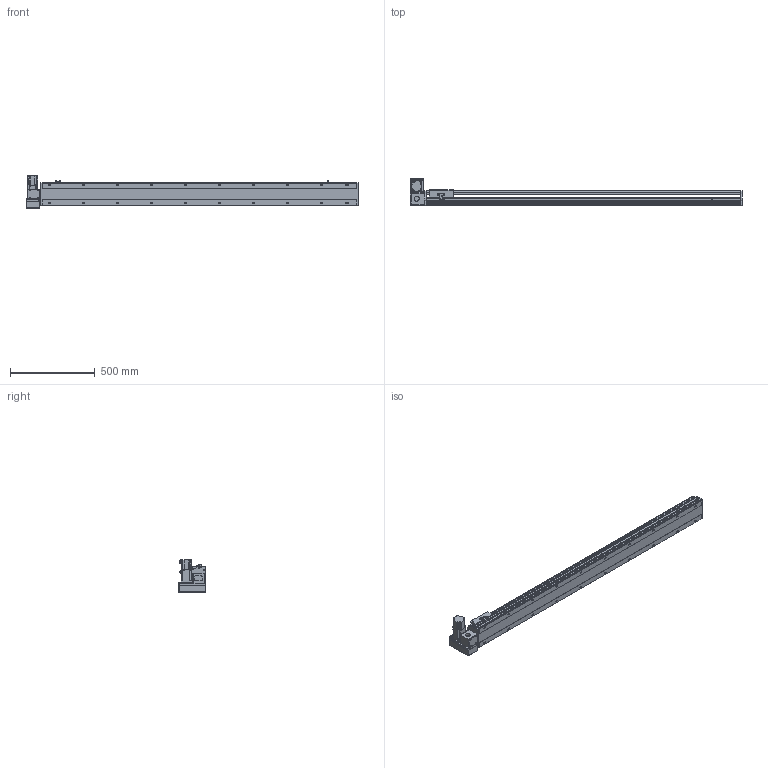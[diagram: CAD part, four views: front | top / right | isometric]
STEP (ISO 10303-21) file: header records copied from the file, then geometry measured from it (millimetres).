
FILE_DESCRIPTION(/* description */ ('STEP AP214'),/* implementation_level */ '2;1');
FILE_NAME(/* name */ 'PBS140S-P40-S1600-LU-T40-C1-N(0)',/* time_stamp */ '2022-06-09T02:35:05+02:00',/* author */ ('License CC BY-ND 4.0'),/* organization */ ('CADENAS'),/* preprocessor_version */ 'ST-DEVELOPER v18.102',/* originating_system */ 'PARTsolutions',/* authorisation */ ' ');
FILE_SCHEMA (('AUTOMOTIVE_DESIGN {1 0 10303 214 3 1 1}'));
Length unit declared in the file: millimetre
Products named in the file (7): PBS140S-P40-S1600-LU-T40-C1-N(0); PBS140S_sensor; PBS140S_plant; PBS140S_sliser; T40-p1; PBS140ST-LU_motors; PBS140S-S1600()_body
Assembly tree (8 placements, depth 2):
  PBS140S-P40-S1600-LU-T40-C1-N(0)
    PBS140S_sensor  x3
    PBS140S_plant
    PBS140S_sliser
    T40-p1
    PBS140ST-LU_motors
    PBS140S-S1600()_body
Bounding box: 1954 x 162.5 x 189.7 mm (x, y, z)
Volume: 9772109.8 mm3; surface area: 1666023.5 mm2
Topology: 8 solids, 8 shells, 1131 faces, 2991 edges, 1957 vertices
Faces by surface type: plane 714, cylinder 361, cone 46, sphere 8, torus 2
Full cylindrical faces by diameter (mm): 3.242 x4, 4 x2, 4.134 x4, 4.4 x8, 4.5 x2, 4.8 x4, 4.917 x28, 5.5 x7, 6 x2, 7 x22, 7.5 x8, 8 x12, 8.5 x4, 10.5 x20, 14 x1, 30 x2, 50 x2
Entity records: 32412 total; most frequent: CARTESIAN_POINT 6040, DIRECTION 5488, ORIENTED_EDGE 5182, EDGE_CURVE 2591, AXIS2_PLACEMENT_3D 1919, VERTEX_POINT 1801, LINE 1650, VECTOR 1650
